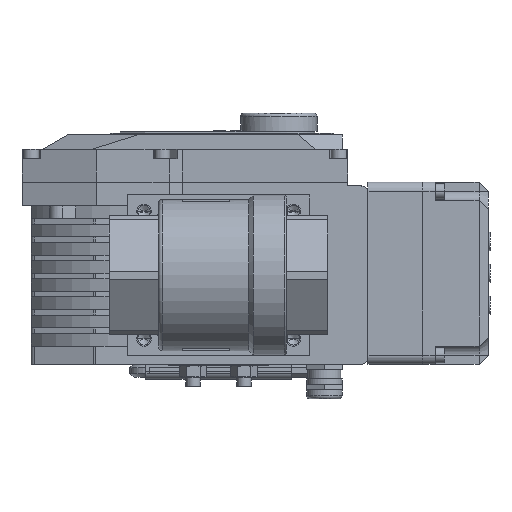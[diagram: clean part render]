
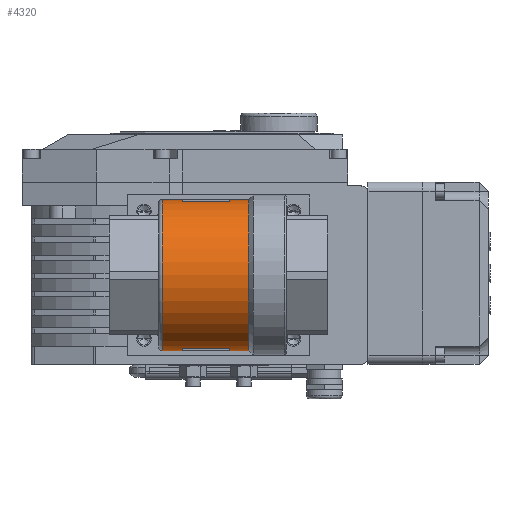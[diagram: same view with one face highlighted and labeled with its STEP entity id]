
A CAD part, front view. The second image highlights one B-rep face of the part: STEP entity #4320.
In plain terms, the highlighted cylindrical face has radius 41.5 mm (diameter 83 mm), a partial arc.
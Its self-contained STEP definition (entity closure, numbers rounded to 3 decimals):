
#1151=CARTESIAN_POINT('',(16.5,0.,0.));
#1152=DIRECTION('',(-1.,0.,0.));
#1153=DIRECTION('',(0.,0.,-1.));
#1154=AXIS2_PLACEMENT_3D('',#1151,#1152,#1153);
#1267=DIRECTION('',(1.,0.,0.));
#1268=VECTOR('',#1267,11.);
#1269=CARTESIAN_POINT('',(-31.,0.,-41.5));
#1270=LINE('',#1269,#1268);
#1285=DIRECTION('',(1.,0.,0.));
#1286=VECTOR('',#1285,10.5);
#1287=CARTESIAN_POINT('',(6.,0.,-41.5));
#1288=LINE('',#1287,#1286);
#1378=CARTESIAN_POINT('',(6.,0.,0.));
#1379=DIRECTION('',(1.,0.,0.));
#1380=DIRECTION('',(0.,0.,1.));
#1381=AXIS2_PLACEMENT_3D('',#1378,#1379,#1380);
#1383=DIRECTION('',(1.,0.,0.));
#1384=VECTOR('',#1383,10.5);
#1385=CARTESIAN_POINT('',(6.,0.,41.5));
#1386=LINE('',#1385,#1384);
#1387=CARTESIAN_POINT('',(6.,0.,0.));
#1388=DIRECTION('',(1.,0.,0.));
#1389=DIRECTION('',(0.,-0.241,-0.971));
#1390=AXIS2_PLACEMENT_3D('',#1387,#1388,#1389);
#1392=DIRECTION('',(1.,0.,0.));
#1393=VECTOR('',#1392,26.);
#1394=CARTESIAN_POINT('',(-20.,-10.,-40.277));
#1395=LINE('',#1394,#1393);
#1396=CARTESIAN_POINT('',(-20.,0.,0.));
#1397=DIRECTION('',(1.,0.,0.));
#1398=DIRECTION('',(0.,-0.241,-0.971));
#1399=AXIS2_PLACEMENT_3D('',#1396,#1397,#1398);
#1401=CARTESIAN_POINT('',(-31.,0.,0.));
#1402=DIRECTION('',(-1.,0.,0.));
#1403=DIRECTION('',(0.,0.,-1.));
#1404=AXIS2_PLACEMENT_3D('',#1401,#1402,#1403);
#1406=DIRECTION('',(1.,0.,0.));
#1407=VECTOR('',#1406,11.);
#1408=CARTESIAN_POINT('',(-31.,0.,41.5));
#1409=LINE('',#1408,#1407);
#1410=CARTESIAN_POINT('',(-20.,0.,0.));
#1411=DIRECTION('',(1.,0.,0.));
#1412=DIRECTION('',(0.,0.,1.));
#1413=AXIS2_PLACEMENT_3D('',#1410,#1411,#1412);
#1415=DIRECTION('',(1.,0.,0.));
#1416=VECTOR('',#1415,26.);
#1417=CARTESIAN_POINT('',(-20.,-10.,40.277));
#1418=LINE('',#1417,#1416);
#2341=CARTESIAN_POINT('',(6.,0.,-41.5));
#2342=VERTEX_POINT('',#2341);
#2343=CARTESIAN_POINT('',(-20.,0.,-41.5));
#2344=VERTEX_POINT('',#2343);
#2345=CARTESIAN_POINT('',(6.,-10.,-40.277));
#2346=VERTEX_POINT('',#2345);
#2347=CARTESIAN_POINT('',(-20.,-10.,-40.277));
#2348=VERTEX_POINT('',#2347);
#2357=CARTESIAN_POINT('',(6.,0.,41.5));
#2358=VERTEX_POINT('',#2357);
#2359=CARTESIAN_POINT('',(-20.,0.,41.5));
#2360=VERTEX_POINT('',#2359);
#2365=CARTESIAN_POINT('',(6.,-10.,40.277));
#2366=VERTEX_POINT('',#2365);
#2367=CARTESIAN_POINT('',(-20.,-10.,40.277));
#2368=VERTEX_POINT('',#2367);
#2373=CARTESIAN_POINT('',(-31.,0.,-41.5));
#2374=CARTESIAN_POINT('',(-31.,0.,41.5));
#2375=VERTEX_POINT('',#2373);
#2376=VERTEX_POINT('',#2374);
#2461=CARTESIAN_POINT('',(16.5,0.,-41.5));
#2462=VERTEX_POINT('',#2461);
#2463=CARTESIAN_POINT('',(16.5,0.,41.5));
#2464=VERTEX_POINT('',#2463);
#4296=CARTESIAN_POINT('',(-33.,0.,0.));
#4297=DIRECTION('',(1.,0.,0.));
#4298=DIRECTION('',(0.,0.,-1.));
#4299=AXIS2_PLACEMENT_3D('',#4296,#4297,#4298);
#4300=CYLINDRICAL_SURFACE('',#4299,41.5);
#4301=ORIENTED_EDGE('',*,*,#4289,.F.);
#4302=ORIENTED_EDGE('',*,*,#4207,.T.);
#4303=ORIENTED_EDGE('',*,*,#3980,.F.);
#4304=ORIENTED_EDGE('',*,*,#4201,.F.);
#4306=ORIENTED_EDGE('',*,*,#4305,.F.);
#4308=ORIENTED_EDGE('',*,*,#4307,.F.);
#4310=ORIENTED_EDGE('',*,*,#4309,.T.);
#4311=ORIENTED_EDGE('',*,*,#4193,.F.);
#4313=ORIENTED_EDGE('',*,*,#4312,.T.);
#4314=ORIENTED_EDGE('',*,*,#4189,.T.);
#4315=ORIENTED_EDGE('',*,*,#4238,.T.);
#4317=ORIENTED_EDGE('',*,*,#4316,.T.);
#4318=EDGE_LOOP('',(#4301,#4302,#4303,#4304,#4306,#4308,#4310,#4311,#4313,#4314,
#4315,#4317));
#4319=FACE_OUTER_BOUND('',#4318,.F.);
#4320=ADVANCED_FACE('',(#4319),#4300,.T.);
#1155=CIRCLE('',#1154,41.5);
#1382=CIRCLE('',#1381,41.5);
#1391=CIRCLE('',#1390,41.5);
#1400=CIRCLE('',#1399,41.5);
#1405=CIRCLE('',#1404,41.5);
#1414=CIRCLE('',#1413,41.5);
#3980=EDGE_CURVE('',#2462,#2464,#1155,.T.);
#4189=EDGE_CURVE('',#2376,#2360,#1409,.T.);
#4193=EDGE_CURVE('',#2375,#2344,#1270,.T.);
#4201=EDGE_CURVE('',#2342,#2462,#1288,.T.);
#4207=EDGE_CURVE('',#2358,#2464,#1386,.T.);
#4238=EDGE_CURVE('',#2360,#2368,#1414,.T.);
#4289=EDGE_CURVE('',#2358,#2366,#1382,.T.);
#4305=EDGE_CURVE('',#2346,#2342,#1391,.T.);
#4307=EDGE_CURVE('',#2348,#2346,#1395,.T.);
#4309=EDGE_CURVE('',#2348,#2344,#1400,.T.);
#4312=EDGE_CURVE('',#2375,#2376,#1405,.T.);
#4316=EDGE_CURVE('',#2368,#2366,#1418,.T.);
